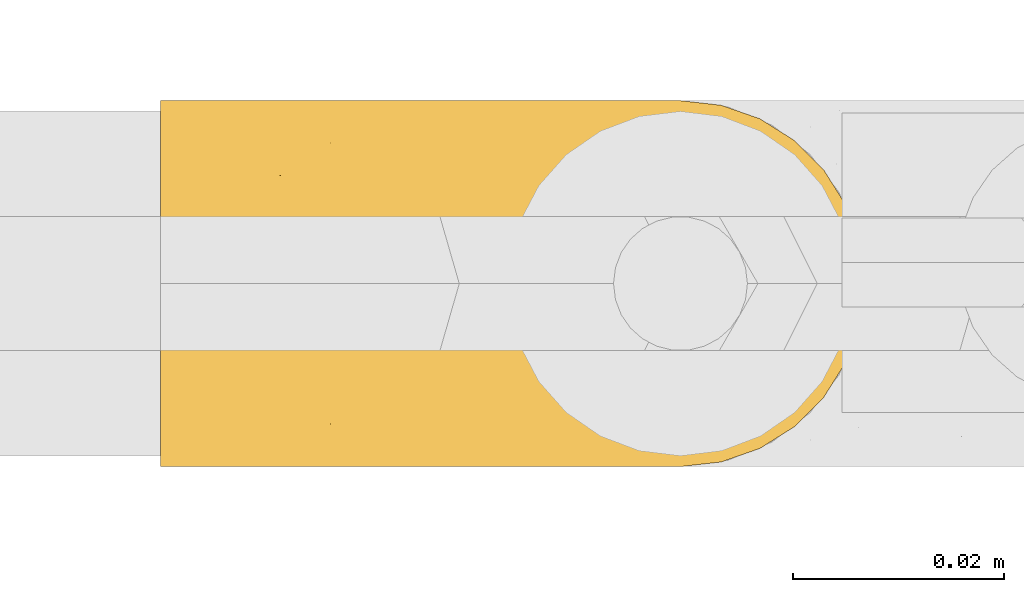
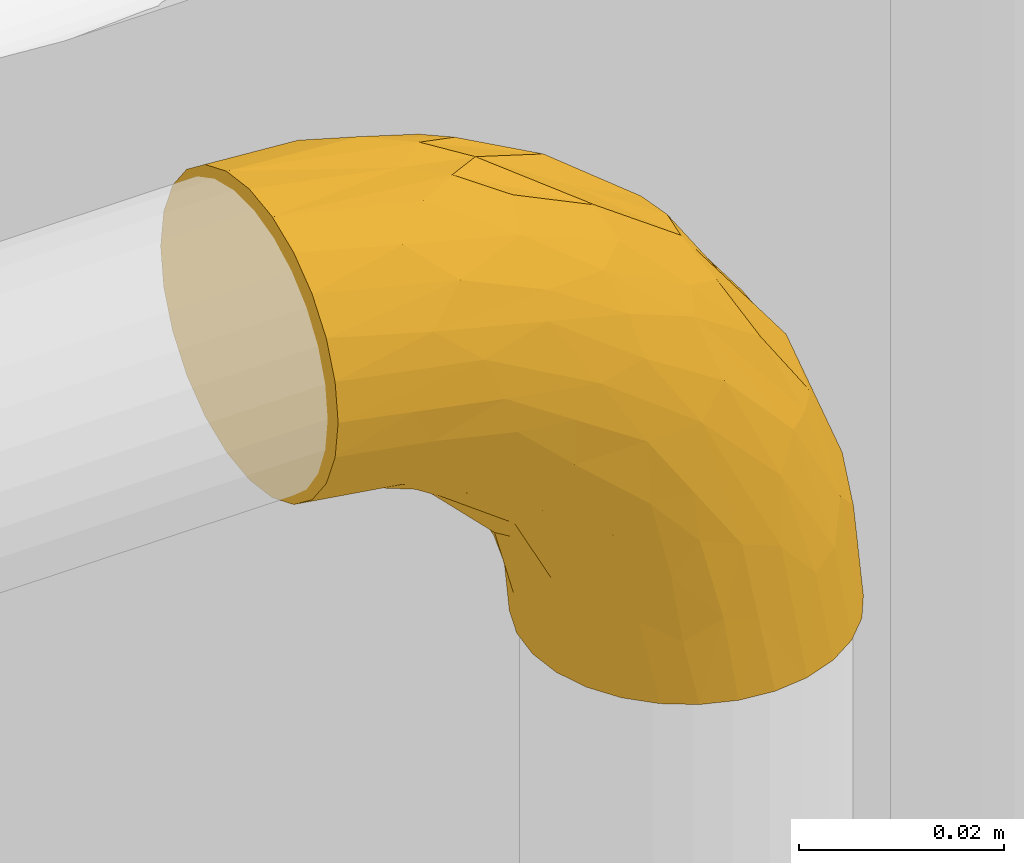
# One storey, part 4 of 30: 1 covering.
"""IFC2X3 building model written with IfcOpenShell, lengths in metres."""

from ifc_helpers import new_model, entity, si_unit, converted_unit, derived_unit, direction, frame, origin, place, context, subcontext, project, spatial, faceted_brep, material, type_object, element, save


model = new_model("IFC2X3")

# Units and contexts
model_context = context("Model", 3, precision=1e-05, world=origin(), true_north=direction((6.123031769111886e-17, 1.0)))
body_context = subcontext(model_context, "Body", "Model", "MODEL_VIEW")
ifc_project = project(units=[si_unit("LENGTHUNIT", "METRE"), si_unit("AREAUNIT", "SQUARE_METRE"), si_unit("VOLUMEUNIT", "CUBIC_METRE"), converted_unit("PLANEANGLEUNIT", "DEGREE", entity("IfcPlaneAngleMeasure", 0.017453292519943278), si_unit("PLANEANGLEUNIT", "RADIAN"), dimensions=[0, 0, 0, 0, 0, 0, 0]), si_unit("MASSUNIT", "GRAM", prefix="KILO"), derived_unit("MASSDENSITYUNIT", [(si_unit("MASSUNIT", "GRAM", prefix="KILO"), 1), (si_unit("LENGTHUNIT", "METRE"), -3)]), derived_unit("IONCONCENTRATIONUNIT", [(si_unit("MASSUNIT", "GRAM", prefix="KILO"), 1), (si_unit("LENGTHUNIT", "METRE"), -3)]), derived_unit("MOMENTOFINERTIAUNIT", [(si_unit("LENGTHUNIT", "METRE"), 4)]), si_unit("TIMEUNIT", "SECOND"), si_unit("FREQUENCYUNIT", "HERTZ"), si_unit("THERMODYNAMICTEMPERATUREUNIT", "DEGREE_CELSIUS"), derived_unit("THERMALTRANSMITTANCEUNIT", [(si_unit("MASSUNIT", "GRAM", prefix="KILO"), 1), (si_unit("THERMODYNAMICTEMPERATUREUNIT", "KELVIN"), -1), (si_unit("TIMEUNIT", "SECOND"), -3)]), derived_unit("THERMALCONDUCTANCEUNIT", [(si_unit("MASSUNIT", "GRAM", prefix="KILO"), 1), (si_unit("THERMODYNAMICTEMPERATUREUNIT", "KELVIN"), -1), (si_unit("TIMEUNIT", "SECOND"), -3), (si_unit("LENGTHUNIT", "METRE"), 1)]), derived_unit("VOLUMETRICFLOWRATEUNIT", [(si_unit("LENGTHUNIT", "METRE", prefix="DECI"), 3), (si_unit("TIMEUNIT", "SECOND"), -1)]), derived_unit("MASSFLOWRATEUNIT", [(si_unit("MASSUNIT", "GRAM", prefix="KILO"), 1), (si_unit("TIMEUNIT", "SECOND"), -1)]), derived_unit("ROTATIONALFREQUENCYUNIT", [(si_unit("TIMEUNIT", "SECOND"), -1)]), si_unit("ELECTRICCURRENTUNIT", "AMPERE"), si_unit("ELECTRICVOLTAGEUNIT", "VOLT"), si_unit("POWERUNIT", "WATT"), si_unit("FORCEUNIT", "NEWTON", prefix="KILO"), si_unit("ILLUMINANCEUNIT", "LUX"), si_unit("LUMINOUSFLUXUNIT", "LUMEN"), si_unit("LUMINOUSINTENSITYUNIT", "CANDELA"), si_unit("ENERGYUNIT", "JOULE"), derived_unit("USERDEFINED", [(si_unit("MASSUNIT", "GRAM", prefix="KILO"), -1), (si_unit("LENGTHUNIT", "METRE"), -2), (si_unit("TIMEUNIT", "SECOND"), 3), (si_unit("LUMINOUSFLUXUNIT", "LUMEN"), 1)]), derived_unit("USERDEFINED", [(si_unit("MASSUNIT", "GRAM", prefix="KILO"), 1), (si_unit("TIMEUNIT", "SECOND"), -3), (si_unit("LENGTHUNIT", "METRE"), 3), (si_unit("ELECTRICCURRENTUNIT", "AMPERE"), -2)]), derived_unit("SOUNDPOWERUNIT", [(si_unit("MASSUNIT", "GRAM", prefix="KILO"), 1), (si_unit("TIMEUNIT", "SECOND"), -3), (si_unit("LENGTHUNIT", "METRE"), 2)]), derived_unit("SOUNDPRESSUREUNIT", [(si_unit("MASSUNIT", "GRAM", prefix="KILO"), 1), (si_unit("LENGTHUNIT", "METRE"), -1), (si_unit("TIMEUNIT", "SECOND"), -2)]), derived_unit("LINEARVELOCITYUNIT", [(si_unit("LENGTHUNIT", "METRE"), 1), (si_unit("TIMEUNIT", "SECOND"), -1)]), si_unit("PRESSUREUNIT", "PASCAL"), derived_unit("USERDEFINED", [(si_unit("MASSUNIT", "GRAM", prefix="KILO"), 1), (si_unit("LENGTHUNIT", "METRE"), -2), (si_unit("TIMEUNIT", "SECOND"), -2)]), derived_unit("LINEARFORCEUNIT", [(si_unit("MASSUNIT", "GRAM", prefix="KILO"), 1), (si_unit("TIMEUNIT", "SECOND"), -2)]), derived_unit("PLANARFORCEUNIT", [(si_unit("MASSUNIT", "GRAM", prefix="KILO"), 1), (si_unit("LENGTHUNIT", "METRE"), -1), (si_unit("TIMEUNIT", "SECOND"), -2)]), derived_unit("SPECIFICHEATCAPACITYUNIT", [(si_unit("THERMODYNAMICTEMPERATUREUNIT", "KELVIN"), -1), (si_unit("LENGTHUNIT", "METRE"), 2), (si_unit("TIMEUNIT", "SECOND"), -2)]), derived_unit("HEATFLUXDENSITYUNIT", [(si_unit("MASSUNIT", "GRAM", prefix="KILO"), 1), (si_unit("TIMEUNIT", "SECOND"), -3)]), derived_unit("HEATINGVALUEUNIT", [(si_unit("LENGTHUNIT", "METRE"), 2), (si_unit("TIMEUNIT", "SECOND"), -2)]), derived_unit("VAPORPERMEABILITYUNIT", [(si_unit("LENGTHUNIT", "METRE"), -1), (si_unit("TIMEUNIT", "SECOND"), 1)]), derived_unit("DYNAMICVISCOSITYUNIT", [(si_unit("MASSUNIT", "GRAM", prefix="KILO"), 1), (si_unit("TIMEUNIT", "SECOND"), -1), (si_unit("LENGTHUNIT", "METRE"), -1)]), derived_unit("THERMALEXPANSIONCOEFFICIENTUNIT", [(si_unit("THERMODYNAMICTEMPERATUREUNIT", "KELVIN"), -1)]), derived_unit("MODULUSOFELASTICITYUNIT", [(si_unit("MASSUNIT", "GRAM", prefix="KILO"), 1), (si_unit("LENGTHUNIT", "METRE"), -1), (si_unit("TIMEUNIT", "SECOND"), -2)]), derived_unit("ISOTHERMALMOISTURECAPACITYUNIT", [(si_unit("MASSUNIT", "GRAM", prefix="KILO"), -1), (si_unit("LENGTHUNIT", "METRE"), 3)]), derived_unit("MOISTUREDIFFUSIVITYUNIT", [(si_unit("TIMEUNIT", "SECOND"), -1), (si_unit("LENGTHUNIT", "METRE"), 2)]), derived_unit("MASSPERLENGTHUNIT", [(si_unit("MASSUNIT", "GRAM", prefix="KILO"), 1), (si_unit("LENGTHUNIT", "METRE"), -1)]), derived_unit("THERMALRESISTANCEUNIT", [(si_unit("MASSUNIT", "GRAM", prefix="KILO"), -1), (si_unit("TIMEUNIT", "SECOND"), 3), (si_unit("THERMODYNAMICTEMPERATUREUNIT", "KELVIN"), 1)]), derived_unit("ACCELERATIONUNIT", [(si_unit("LENGTHUNIT", "METRE"), 1), (si_unit("TIMEUNIT", "SECOND"), -2)]), derived_unit("ANGULARVELOCITYUNIT", [(si_unit("TIMEUNIT", "SECOND"), -1), (si_unit("PLANEANGLEUNIT", "RADIAN"), 1)]), derived_unit("LINEARSTIFFNESSUNIT", [(si_unit("MASSUNIT", "GRAM", prefix="KILO"), 1), (si_unit("TIMEUNIT", "SECOND"), -2)]), derived_unit("WARPINGCONSTANTUNIT", [(si_unit("LENGTHUNIT", "METRE"), 6)]), derived_unit("LINEARMOMENTUNIT", [(si_unit("MASSUNIT", "GRAM", prefix="KILO"), 1), (si_unit("LENGTHUNIT", "METRE"), 1), (si_unit("TIMEUNIT", "SECOND"), -2)]), derived_unit("TORQUEUNIT", [(si_unit("MASSUNIT", "GRAM", prefix="KILO"), 1), (si_unit("LENGTHUNIT", "METRE"), 2), (si_unit("TIMEUNIT", "SECOND"), -2)])], contexts=[model_context])

# Site, building, storey
site_placement = place(None, origin())
site = spatial("IfcSite", under=ifc_project, at=site_placement, Name="Default", CompositionType="ELEMENT")
building_placement = place(site_placement, origin())
building = spatial("IfcBuilding", under=site, at=building_placement, CompositionType="ELEMENT")
storey_placement = place(building_placement, origin())
storey = spatial("IfcBuildingStorey", under=building, at=storey_placement, Name="Niveau 0", CompositionType="ELEMENT", Elevation=-1.949160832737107e-14)

# Covering
ifc_material = material(Name="Matériau du rendu 255-255-255")
covering_type = type_object("IfcCoveringType", Name="Isolation des canalisations:Par défaut", PredefinedType="INSULATION")
covering_placement = place(storey_placement, frame((-20.96723720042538, 1.3561078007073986, 0.05463137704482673)))
element("IfcCovering", 1, at=covering_placement, inside=storey, type_object=covering_type, material=ifc_material, Name="Isolation des canalisations:Par défaut", ObjectType="Isolation des canalisations:Par défaut", PredefinedType="INSULATION", context=body_context, shape_type="Brep", body=[
    faceted_brep([(0.050901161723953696, 0.03629527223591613, -0.06822852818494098), (0.054763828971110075, 0.03585983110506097, -0.06822852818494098), (0.05843178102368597, 0.034575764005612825, -0.06822852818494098), (0.06172135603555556, 0.032507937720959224, -0.06822852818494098), (0.06446795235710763, 0.029760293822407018, -0.06822852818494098), (0.0665341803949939, 0.026470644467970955, -0.06822852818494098), (0.0678166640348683, 0.02280380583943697, -0.06822852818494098), (0.06825116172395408, 0.018945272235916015, -0.06822852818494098), (0.0678157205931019, 0.015082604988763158, -0.06822852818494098), (0.06653165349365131, 0.011414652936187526, -0.06822852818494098), (0.06446382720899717, 0.008125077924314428, -0.06822852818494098), (0.06171618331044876, 0.005378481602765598, -0.06822852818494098), (0.058426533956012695, 0.0033122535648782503, -0.06822852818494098), (0.05475969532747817, 0.0020297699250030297, -0.06822852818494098), (0.050901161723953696, 0.0015952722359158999, -0.06822852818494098), (0.04703849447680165, 0.0020307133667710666, -0.06822852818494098), (0.04337054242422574, 0.003314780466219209, -0.06822852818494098), (0.040080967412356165, 0.005382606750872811, -0.06822852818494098), (0.037334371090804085, 0.008130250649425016, -0.06822852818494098), (0.035268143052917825, 0.011419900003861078, -0.06822852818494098), (0.03398565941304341, 0.015086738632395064, -0.06822852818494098), (0.03355116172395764, 0.018945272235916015, -0.06822852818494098), (0.033986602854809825, 0.022807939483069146, -0.06822852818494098), (0.035270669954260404, 0.026475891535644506, -0.06822852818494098), (0.03733849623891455, 0.029765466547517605, -0.06822852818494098), (0.040086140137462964, 0.03251206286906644, -0.06822852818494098), (0.043375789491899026, 0.03457829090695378, -0.06822852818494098), (0.047042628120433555, 0.035860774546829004, -0.06822852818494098), (0.0016068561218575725, 0.014454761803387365, -0.03570408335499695), (0.0016062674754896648, 0.010270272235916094, -0.03397081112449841), (0.0016053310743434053, 0.006676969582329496, -0.03121357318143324), (0.0016041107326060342, 0.003919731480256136, -0.027620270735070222), (0.0016026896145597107, 0.0021864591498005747, -0.023435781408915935), (0.0016011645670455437, 0.0015952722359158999, -0.01894527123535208), (0.0015996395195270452, 0.0021864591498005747, -0.01445476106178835), (0.0015982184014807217, 0.0039197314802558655, -0.010270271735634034), (0.0015969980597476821, 0.006676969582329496, -0.006676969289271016), (0.001596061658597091, 0.010270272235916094, -0.003919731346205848), (0.0015954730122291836, 0.014454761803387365, -0.0021864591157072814), (0.0015952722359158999, 0.018945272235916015, -0.0015952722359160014), (0.0015954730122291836, 0.023435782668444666, -0.0021864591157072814), (0.001596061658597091, 0.02762027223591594, -0.003919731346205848), (0.0015969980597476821, 0.03121357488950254, -0.006676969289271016), (0.0015982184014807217, 0.033970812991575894, -0.010270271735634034), (0.0015996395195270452, 0.03570408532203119, -0.01445476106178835), (0.0016011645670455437, 0.03629527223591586, -0.018945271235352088), (0.0016026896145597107, 0.03570408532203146, -0.023435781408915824), (0.0016041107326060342, 0.033970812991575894, -0.02762027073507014), (0.0016053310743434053, 0.03121357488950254, -0.03121357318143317), (0.0016062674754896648, 0.02762027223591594, -0.03397081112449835), (0.0016068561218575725, 0.023435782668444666, -0.03570408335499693), (0.0016070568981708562, 0.018945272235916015, -0.036295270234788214), (0.04461032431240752, 0.03133374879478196, -0.02435004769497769), (0.05521450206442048, 0.0324509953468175, -0.040872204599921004), (0.04663488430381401, 0.03378611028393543, -0.03122944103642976), (0.0226357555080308, 0.02214963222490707, -0.005311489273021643), (0.018503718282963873, 0.018945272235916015, -0.004953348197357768), (0.027101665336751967, 0.018945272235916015, -0.006660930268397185), (0.026426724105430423, 0.028815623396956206, -0.009718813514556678), (0.03474717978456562, 0.030681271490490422, -0.015748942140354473), (0.027246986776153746, 0.032742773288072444, -0.014196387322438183), (0.01764462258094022, 0.02524037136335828, -0.004770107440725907), (0.01300411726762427, 0.029200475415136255, -0.005983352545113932), (0.04295673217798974, 0.03568201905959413, -0.03371045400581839), (0.03646051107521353, 0.03629527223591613, -0.03337408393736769), (0.031417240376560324, 0.03597714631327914, -0.024895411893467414), (0.06145159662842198, 0.03075237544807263, -0.05199775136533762), (0.053716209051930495, 0.029890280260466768, -0.03326065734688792), (0.01835368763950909, 0.035814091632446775, -0.017580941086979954), (0.026340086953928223, 0.034392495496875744, -0.016665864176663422), (0.05972009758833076, 0.023163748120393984, -0.03668472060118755), (0.0653609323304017, 0.024353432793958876, -0.05203080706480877), (0.05993411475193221, 0.02745046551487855, -0.040891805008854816), (0.017675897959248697, 0.03226268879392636, -0.009998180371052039), (0.04714809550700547, 0.03629527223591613, -0.04936477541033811), (0.0418043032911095, 0.03629527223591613, -0.0413694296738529), (0.013171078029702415, 0.03478430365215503, -0.013060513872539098), (0.03767981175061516, 0.0239596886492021, -0.013079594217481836), (0.04804784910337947, 0.022772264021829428, -0.021032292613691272), (0.05010110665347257, 0.026247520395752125, -0.024901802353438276), (0.06571400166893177, 0.018945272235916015, -0.05547619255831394), (0.03836817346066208, 0.02754193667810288, -0.015400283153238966), (0.02803531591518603, 0.024608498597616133, -0.008092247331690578), (0.06460536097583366, 0.027861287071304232, -0.05598148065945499), (0.06317684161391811, 0.018945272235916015, -0.04272385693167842), (0.0492192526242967, 0.03629527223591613, -0.05977487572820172), (0.051798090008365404, 0.0359148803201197, -0.05149593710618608), (0.05932944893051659, 0.03331084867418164, -0.05590701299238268), (0.03697233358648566, 0.03484788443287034, -0.024515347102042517), (0.05614785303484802, 0.035026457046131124, -0.05640918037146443), (0.036231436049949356, 0.03308464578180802, -0.02003186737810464), (0.05242498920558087, 0.03479715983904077, -0.043889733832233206), (0.028463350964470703, 0.03629527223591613, -0.028033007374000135), (0.020466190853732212, 0.03629527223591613, -0.022691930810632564), (0.049024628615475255, 0.03629527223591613, -0.05879665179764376), (0.055951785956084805, 0.018945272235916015, -0.03191377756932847), (0.045748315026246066, 0.02883725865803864, -0.02251785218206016), (0.03791419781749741, 0.018945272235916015, -0.01388231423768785), (0.010055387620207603, 0.03629527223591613, -0.02062430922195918), (0.04872673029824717, 0.018945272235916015, -0.02110369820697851), (0.035626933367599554, 0.028742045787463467, -0.06011335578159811), (0.012766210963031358, 0.035509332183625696, -0.02553976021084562), (0.02081242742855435, 0.029715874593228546, -0.038150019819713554), (0.012292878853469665, 0.03027910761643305, -0.0336939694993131), (0.022515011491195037, 0.03257177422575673, -0.03584153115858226), (0.04261328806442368, 0.03596380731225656, -0.04756628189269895), (0.045406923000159, 0.03575450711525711, -0.057923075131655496), (0.040150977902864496, 0.03464376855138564, -0.051783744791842), (0.022047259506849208, 0.03590336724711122, -0.027442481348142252), (0.01760542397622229, 0.033787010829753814, -0.03123824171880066), (0.03122969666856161, 0.02198852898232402, -0.05557443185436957), (0.03345482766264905, 0.023813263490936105, -0.06107740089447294), (0.03133100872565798, 0.018945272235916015, -0.059944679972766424), (0.03423440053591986, 0.03344866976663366, -0.04548871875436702), (0.03729535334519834, 0.035640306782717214, -0.04152992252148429), (0.008893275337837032, 0.0332157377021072, -0.029490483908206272), (0.01436718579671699, 0.02263447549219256, -0.03851849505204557), (0.009891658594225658, 0.018945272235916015, -0.038512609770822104), (0.007593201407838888, 0.021963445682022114, -0.03659004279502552), (0.03800500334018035, 0.03195866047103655, -0.05795974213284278), (0.0330497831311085, 0.03039145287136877, -0.05018121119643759), (0.009238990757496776, 0.025153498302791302, -0.036036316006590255), (0.016775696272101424, 0.026503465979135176, -0.038167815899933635), (0.04177301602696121, 0.03413194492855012, -0.06049237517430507), (0.026742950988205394, 0.02725739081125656, -0.045241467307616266), (0.027452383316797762, 0.03144051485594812, -0.0413983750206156), (0.029271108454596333, 0.018945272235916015, -0.05225876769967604), (0.023255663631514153, 0.02282531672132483, -0.04414954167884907), (0.017578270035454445, 0.018945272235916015, -0.040569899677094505), (0.02887978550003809, 0.03537573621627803, -0.03406209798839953), (0.03189750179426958, 0.02543525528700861, -0.05463042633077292), (0.028271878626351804, 0.023658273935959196, -0.04948312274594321), (0.02342468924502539, 0.018945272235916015, -0.04641433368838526), (0.02918236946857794, 0.03385027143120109, -0.038689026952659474), (0.012292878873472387, 0.007611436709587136, -0.033693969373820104), (0.035623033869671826, 0.009153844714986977, -0.06011276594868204), (0.037998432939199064, 0.005936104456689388, -0.057954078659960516), (0.007593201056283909, 0.015927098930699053, -0.03659004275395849), (0.042602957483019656, 0.0019295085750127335, -0.0475767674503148), (0.0418043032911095, 0.0015952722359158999, -0.041369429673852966), (0.03726655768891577, 0.0022576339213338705, -0.0415349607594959), (0.03304205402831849, 0.007506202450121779, -0.05018028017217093), (0.027452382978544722, 0.006450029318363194, -0.04139837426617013), (0.02919296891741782, 0.004039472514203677, -0.03869708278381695), (0.022524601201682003, 0.0053150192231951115, -0.03584205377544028), (0.03345318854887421, 0.014084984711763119, -0.061080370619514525), (0.028879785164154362, 0.002514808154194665, -0.03406209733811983), (0.02204725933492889, 0.0019871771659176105, -0.02744248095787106), (0.01760542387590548, 0.0041035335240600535, -0.03123824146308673), (0.012766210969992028, 0.0023812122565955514, -0.025539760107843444), (0.010055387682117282, 0.0015952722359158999, -0.02062430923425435), (0.04176665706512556, 0.0037612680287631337, -0.06048489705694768), (0.04540129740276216, 0.0021371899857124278, -0.057918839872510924), (0.040140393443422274, 0.003248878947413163, -0.05177033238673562), (0.009238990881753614, 0.012737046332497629, -0.03603631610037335), (0.00889327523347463, 0.004674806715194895, -0.029490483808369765), (0.034231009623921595, 0.004449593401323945, -0.045504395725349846), (0.014367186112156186, 0.015256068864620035, -0.03851849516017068), (0.028264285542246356, 0.014233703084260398, -0.04947303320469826), (0.02671609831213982, 0.0106478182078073, -0.045223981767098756), (0.023236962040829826, 0.015070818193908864, -0.04413447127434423), (0.03122927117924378, 0.015905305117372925, -0.05557492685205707), (0.031899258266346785, 0.012460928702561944, -0.05463989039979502), (0.0167756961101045, 0.011387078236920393, -0.03816781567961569), (0.0492192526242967, 0.0015952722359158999, -0.059774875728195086), (0.049024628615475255, 0.0015952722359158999, -0.058796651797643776), (0.04714809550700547, 0.0015952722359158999, -0.04936477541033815), (0.020466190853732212, 0.0015952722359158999, -0.022691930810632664), (0.028463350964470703, 0.0015952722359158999, -0.028033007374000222), (0.020805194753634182, 0.008171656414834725, -0.03814257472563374), (0.03646051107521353, 0.0015952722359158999, -0.033374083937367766), (0.027226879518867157, 0.005144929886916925, -0.014190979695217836), (0.034764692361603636, 0.007215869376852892, -0.015752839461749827), (0.02642672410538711, 0.009074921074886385, -0.009718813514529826), (0.022635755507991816, 0.01574091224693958, -0.0053114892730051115), (0.028035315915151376, 0.013282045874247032, -0.008092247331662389), (0.03767981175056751, 0.013930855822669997, -0.013079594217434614), (0.05993451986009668, 0.010434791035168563, -0.0408996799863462), (0.06535991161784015, 0.013532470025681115, -0.05203297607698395), (0.05971370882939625, 0.014723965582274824, -0.036674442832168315), (0.05520951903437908, 0.005435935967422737, -0.04087230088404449), (0.046613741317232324, 0.00409876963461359, -0.031218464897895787), (0.05242830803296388, 0.0030909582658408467, -0.04390929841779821), (0.04297621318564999, 0.002206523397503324, -0.03374525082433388), (0.018346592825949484, 0.0020764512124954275, -0.017578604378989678), (0.026340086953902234, 0.0034980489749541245, -0.016665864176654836), (0.03621448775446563, 0.00481023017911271, -0.020012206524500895), (0.013169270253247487, 0.0031068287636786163, -0.013058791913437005), (0.01764462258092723, 0.012650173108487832, -0.004770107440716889), (0.06460179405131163, 0.01002413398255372, -0.0559792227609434), (0.013004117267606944, 0.00869006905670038, -0.0059833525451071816), (0.03834431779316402, 0.01035288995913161, -0.015380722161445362), (0.01767589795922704, 0.005627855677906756, -0.00999818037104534), (0.05932452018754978, 0.00457627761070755, -0.05590810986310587), (0.061447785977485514, 0.007133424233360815, -0.05200054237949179), (0.05179495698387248, 0.001974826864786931, -0.051498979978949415), (0.057843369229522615, 0.007727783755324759, -0.04089084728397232), (0.044610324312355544, 0.006556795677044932, -0.024350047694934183), (0.05617272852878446, 0.0028519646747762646, -0.05666846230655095), (0.048059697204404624, 0.015114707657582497, -0.021045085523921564), (0.050093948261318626, 0.011634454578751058, -0.024899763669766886), (0.03142264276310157, 0.001914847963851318, -0.024890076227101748), (0.03702357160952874, 0.0030484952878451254, -0.024539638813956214), (0.04571093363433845, 0.009051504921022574, -0.02248350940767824), (0.053656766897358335, 0.009268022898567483, -0.03151922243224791)], [[[0, 1, 2, 3, 4, 5, 6, 7, 8, 9, 10, 11, 12, 13, 14, 15, 16, 17, 18, 19, 20, 21, 22, 23, 24, 25, 26, 27]], [[28, 29, 30, 31, 32, 33, 34, 35, 36, 37, 38, 39, 40, 41, 42, 43, 44, 45, 46, 47, 48, 49, 50, 51]], [[52, 53, 54]], [[55, 56, 57]], [[58, 59, 60]], [[61, 58, 62]], [[63, 64, 65]], [[61, 41, 40]], [[66, 53, 67]], [[68, 69, 65]], [[70, 71, 72]], [[62, 73, 42]], [[63, 74, 75, 64]], [[45, 44, 68]], [[69, 68, 76]], [[77, 78, 79]], [[42, 73, 43]], [[80, 7, 6]], [[58, 81, 59]], [[61, 55, 82]], [[71, 5, 83]], [[84, 71, 70]], [[83, 5, 4]], [[6, 71, 80]], [[71, 84, 80]], [[77, 55, 57]], [[5, 71, 6]], [[3, 66, 4]], [[1, 0, 85]], [[63, 86, 74]], [[66, 87, 53]], [[62, 42, 41]], [[63, 65, 88]], [[1, 86, 89]], [[40, 56, 55]], [[73, 60, 76]], [[83, 72, 71]], [[90, 59, 52]], [[40, 55, 61]], [[87, 66, 3]], [[4, 66, 83]], [[87, 3, 2]], [[72, 83, 66]], [[91, 89, 86]], [[53, 87, 91]], [[54, 53, 91]], [[67, 53, 52]], [[63, 54, 91]], [[54, 88, 90]], [[91, 87, 89]], [[65, 64, 92, 93]], [[86, 63, 91]], [[86, 85, 94, 74]], [[1, 85, 86]], [[70, 72, 79]], [[78, 95, 70]], [[67, 79, 72]], [[59, 81, 96]], [[40, 39, 56]], [[77, 57, 97]], [[82, 55, 77]], [[87, 2, 89]], [[1, 89, 2]], [[81, 82, 77]], [[58, 61, 82]], [[68, 65, 93]], [[88, 65, 69]], [[68, 93, 98, 45]], [[76, 68, 44]], [[90, 88, 69]], [[54, 63, 88]], [[60, 90, 69]], [[54, 90, 52]], [[59, 90, 60]], [[82, 81, 58]], [[77, 79, 81]], [[96, 81, 79]], [[44, 43, 76]], [[73, 76, 43]], [[61, 62, 41]], [[73, 62, 58]], [[76, 60, 69]], [[60, 73, 58]], [[70, 79, 78]], [[95, 84, 70]], [[67, 52, 96]], [[78, 97, 99]], [[66, 67, 72]], [[97, 78, 77]], [[78, 99, 95]], [[67, 96, 79]], [[59, 96, 52]], [[100, 24, 23]], [[93, 101, 98]], [[102, 103, 104]], [[98, 101, 46]], [[105, 106, 107]], [[108, 109, 101]], [[110, 111, 112]], [[92, 108, 93]], [[113, 114, 107]], [[47, 115, 48]], [[116, 117, 118]], [[49, 48, 103]], [[119, 100, 120]], [[100, 119, 24]], [[121, 122, 116]], [[119, 120, 113]], [[103, 122, 121]], [[115, 103, 48]], [[119, 107, 123]], [[123, 26, 25]], [[118, 51, 50]], [[26, 106, 27]], [[106, 74, 94]], [[46, 101, 47]], [[115, 101, 109]], [[123, 106, 26]], [[124, 125, 120]], [[22, 21, 112]], [[119, 25, 24]], [[110, 112, 126]], [[111, 23, 22]], [[114, 75, 105]], [[116, 127, 128]], [[122, 127, 116]], [[64, 129, 92]], [[106, 94, 27]], [[111, 100, 23]], [[109, 129, 104]], [[130, 124, 120]], [[130, 120, 100]], [[120, 125, 113]], [[130, 110, 131]], [[102, 124, 122]], [[121, 118, 50]], [[27, 94, 85, 0]], [[128, 117, 116]], [[127, 122, 124]], [[131, 124, 130]], [[131, 132, 127]], [[119, 123, 25]], [[106, 123, 107]], [[108, 101, 93]], [[113, 107, 119]], [[129, 133, 104]], [[125, 133, 113]], [[113, 133, 114]], [[129, 64, 114]], [[75, 74, 105]], [[92, 129, 108]], [[109, 108, 129]], [[46, 45, 98]], [[111, 110, 130]], [[126, 131, 110]], [[124, 131, 127]], [[111, 130, 100]], [[112, 111, 22]], [[50, 49, 121]], [[103, 121, 49]], [[101, 115, 47]], [[103, 115, 109]], [[116, 118, 121]], [[51, 118, 117]], [[133, 125, 104]], [[114, 133, 129]], [[102, 104, 125]], [[103, 109, 104]], [[124, 102, 125]], [[103, 102, 122]], [[114, 64, 75]], [[106, 105, 74]], [[107, 114, 105]], [[132, 131, 126]], [[132, 128, 127]], [[30, 29, 134]], [[135, 18, 136]], [[51, 117, 137]], [[138, 139, 140]], [[141, 135, 136]], [[142, 143, 144]], [[145, 112, 20]], [[146, 147, 148]], [[149, 150, 32]], [[151, 152, 153]], [[134, 29, 154]], [[155, 31, 30]], [[18, 135, 19]], [[149, 32, 31]], [[156, 141, 136]], [[157, 117, 128]], [[158, 159, 160]], [[126, 112, 161]], [[161, 145, 162]], [[155, 149, 31]], [[154, 28, 137]], [[17, 151, 136]], [[18, 17, 136]], [[145, 19, 135]], [[135, 141, 162]], [[17, 16, 151]], [[16, 15, 152]], [[146, 144, 143]], [[143, 140, 146]], [[159, 163, 160]], [[15, 14, 164, 165]], [[15, 165, 152]], [[138, 152, 166]], [[141, 159, 162]], [[155, 134, 148]], [[112, 21, 20]], [[167, 147, 168]], [[144, 169, 142]], [[145, 135, 162]], [[156, 136, 153]], [[141, 142, 159]], [[169, 159, 142]], [[157, 160, 163]], [[157, 128, 160]], [[166, 152, 165]], [[154, 137, 157]], [[157, 163, 154]], [[158, 132, 126]], [[126, 161, 158]], [[152, 151, 16]], [[136, 151, 153]], [[168, 146, 170]], [[149, 147, 167]], [[156, 142, 141]], [[140, 156, 153]], [[143, 142, 156]], [[140, 153, 138]], [[170, 146, 140]], [[148, 147, 149]], [[146, 168, 147]], [[150, 149, 167]], [[150, 33, 32]], [[158, 161, 162]], [[159, 158, 162]], [[160, 132, 158]], [[112, 145, 161]], [[19, 145, 20]], [[134, 154, 163]], [[29, 28, 154]], [[134, 155, 30]], [[149, 155, 148]], [[51, 137, 28]], [[157, 137, 117]], [[140, 143, 156]], [[144, 146, 148]], [[148, 134, 144]], [[169, 134, 163]], [[134, 169, 144]], [[159, 169, 163]], [[139, 138, 166]], [[139, 170, 140]], [[152, 138, 153]], [[160, 128, 132]], [[171, 172, 173]], [[174, 175, 176]], [[177, 178, 179]], [[180, 181, 182]], [[183, 182, 181]], [[184, 33, 150, 167]], [[171, 185, 186]], [[184, 187, 34]], [[174, 38, 188]], [[177, 189, 178]], [[36, 190, 37]], [[176, 175, 191]], [[192, 36, 35]], [[37, 190, 188]], [[174, 176, 57]], [[193, 11, 194]], [[183, 166, 195]], [[175, 174, 188]], [[195, 166, 165, 164]], [[56, 174, 57]], [[10, 194, 11]], [[196, 197, 180]], [[179, 178, 84]], [[12, 193, 198]], [[11, 193, 12]], [[190, 192, 173]], [[179, 95, 199]], [[189, 9, 178]], [[193, 180, 182]], [[9, 189, 10]], [[8, 80, 178]], [[177, 179, 200]], [[201, 170, 183]], [[177, 194, 189]], [[37, 188, 38]], [[178, 9, 8]], [[194, 177, 196]], [[164, 14, 13]], [[187, 192, 35]], [[167, 201, 184]], [[194, 10, 189]], [[180, 193, 194]], [[198, 182, 195]], [[196, 180, 194]], [[181, 180, 197]], [[185, 202, 186]], [[201, 167, 168, 170]], [[201, 202, 185]], [[183, 170, 139, 166]], [[195, 182, 183]], [[164, 13, 195]], [[198, 13, 12]], [[199, 95, 99]], [[200, 199, 176]], [[191, 173, 172]], [[200, 203, 204]], [[174, 56, 38]], [[56, 39, 38]], [[199, 97, 176]], [[182, 198, 193]], [[13, 198, 195]], [[188, 173, 175]], [[191, 175, 173]], [[202, 201, 183]], [[184, 201, 185]], [[187, 184, 185]], [[33, 184, 34]], [[183, 181, 202]], [[186, 181, 197]], [[181, 186, 202]], [[186, 197, 172]], [[191, 203, 200]], [[171, 173, 192]], [[203, 172, 197]], [[200, 176, 191]], [[187, 185, 171]], [[35, 34, 187]], [[192, 190, 36]], [[188, 190, 173]], [[172, 171, 186]], [[187, 171, 192]], [[179, 84, 95]], [[80, 8, 7]], [[80, 84, 178]], [[97, 57, 176]], [[177, 200, 204]], [[179, 199, 200]], [[97, 199, 99]], [[172, 203, 191]], [[204, 197, 196]], [[197, 204, 203]], [[177, 204, 196]]]),
])

save(model, "model.ifc")
